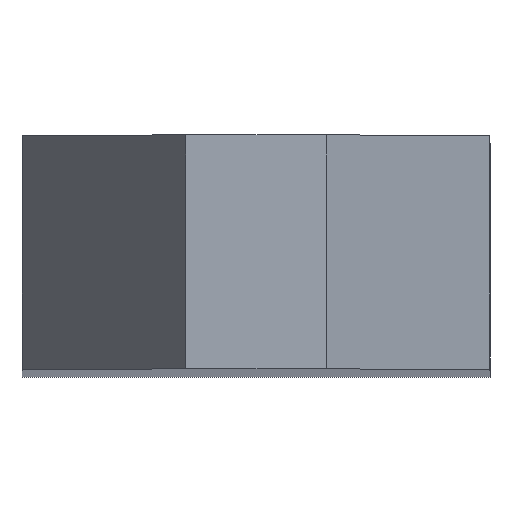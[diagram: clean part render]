
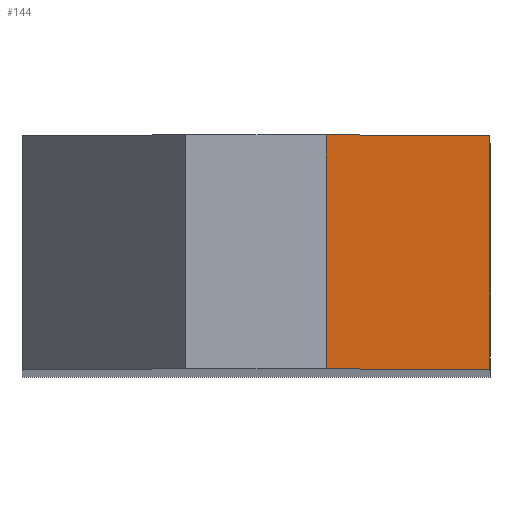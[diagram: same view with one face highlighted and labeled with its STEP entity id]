
A CAD part, top view. The second image highlights one B-rep face of the part: STEP entity #144.
In plain terms, the highlighted planar face has unit normal (0.819, 0, 0.574).
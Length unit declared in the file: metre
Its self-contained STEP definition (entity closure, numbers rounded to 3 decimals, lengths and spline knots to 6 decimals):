
#40=ORIENTED_EDGE('',*,*,#63,.F.);
#41=ORIENTED_EDGE('',*,*,#65,.F.);
#42=ORIENTED_EDGE('',*,*,#57,.F.);
#43=ORIENTED_EDGE('',*,*,#59,.F.);
#57=EDGE_CURVE('',#73,#74,#87,.T.);
#59=EDGE_CURVE('',#75,#73,#89,.T.);
#63=EDGE_CURVE('',#77,#75,#93,.T.);
#65=EDGE_CURVE('',#74,#77,#95,.T.);
#73=VERTEX_POINT('',#223);
#74=VERTEX_POINT('',#225);
#75=VERTEX_POINT('',#229);
#77=VERTEX_POINT('',#235);
#87=LINE('',#224,#105);
#89=LINE('',#228,#107);
#93=LINE('',#236,#111);
#95=LINE('',#239,#113);
#105=VECTOR('',#184,1.);
#107=VECTOR('',#188,1.);
#111=VECTOR('',#194,1.);
#113=VECTOR('',#198,1.);
#120=EDGE_LOOP('',(#40,#41,#42,#43));
#128=FACE_BOUND('',#120,.T.);
#136=PLANE('',#165);
#144=ADVANCED_FACE('',(#128),#136,.F.);
#165=AXIS2_PLACEMENT_3D('',#240,#199,#200);
#184=DIRECTION('',(-0.573,0.,0.819));
#188=DIRECTION('',(0.,-1.,0.));
#194=DIRECTION('',(0.573,0.,-0.819));
#198=DIRECTION('',(0.,1.,0.));
#199=DIRECTION('',(-0.819,0.,-0.573));
#200=DIRECTION('',(-0.573,0.,0.819));
#223=CARTESIAN_POINT('',(-0.0045,0.02925,0.02115));
#224=CARTESIAN_POINT('',(-0.002433,0.02925,0.018197));
#225=CARTESIAN_POINT('',(-0.00485,0.02925,0.02165));
#228=CARTESIAN_POINT('',(-0.0045,0.02925,0.02115));
#229=CARTESIAN_POINT('',(-0.0045,0.02975,0.02115));
#235=CARTESIAN_POINT('',(-0.00485,0.02975,0.02165));
#236=CARTESIAN_POINT('',(-0.002268,0.02975,0.017962));
#239=CARTESIAN_POINT('',(-0.00485,0.029375,0.02165));
#240=CARTESIAN_POINT('',(-0.0045,0.02925,0.02115));
